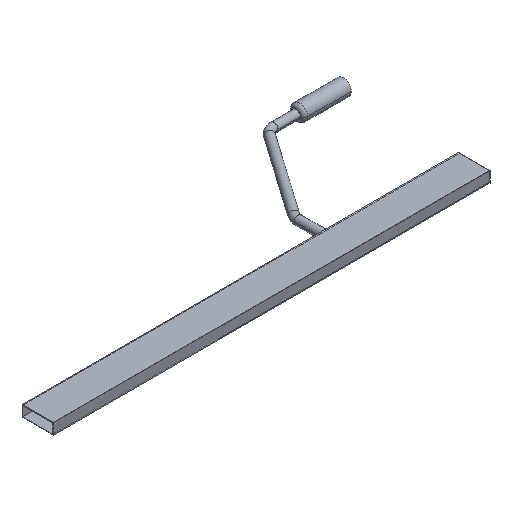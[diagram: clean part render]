
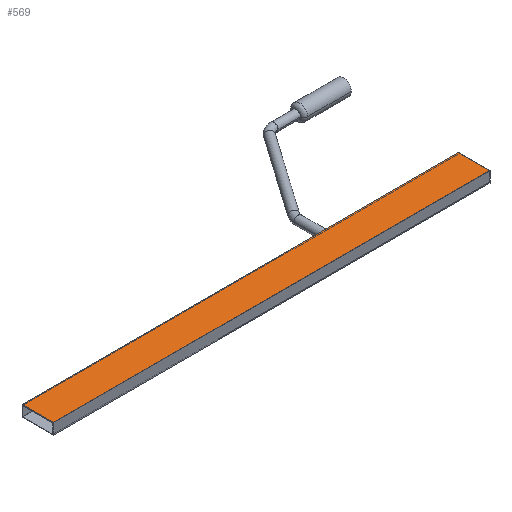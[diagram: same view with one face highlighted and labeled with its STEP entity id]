
A CAD part, isometric view. The second image highlights one B-rep face of the part: STEP entity #569.
In plain terms, the highlighted planar face has unit normal (0, 0, 1).
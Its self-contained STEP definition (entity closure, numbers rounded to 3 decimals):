
#69 = ORIENTED_EDGE ( 'NONE', *, *, #538, .F. ) ;
#70 = ORIENTED_EDGE ( 'NONE', *, *, #521, .F. ) ;
#71 = ORIENTED_EDGE ( 'NONE', *, *, #483, .T. ) ;
#72 = ORIENTED_EDGE ( 'NONE', *, *, #459, .T. ) ;
#114 = EDGE_LOOP ( 'NONE', ( #69, #70, #71, #72 ) ) ;
#133 = VERTEX_POINT ( 'NONE', #165 ) ;
#141 = VERTEX_POINT ( 'NONE', #169 ) ;
#143 = VERTEX_POINT ( 'NONE', #171 ) ;
#148 = VERTEX_POINT ( 'NONE', #176 ) ;
#165 = CARTESIAN_POINT ( 'NONE',  ( 127.247, -30., 5.25 ) ) ;
#169 = CARTESIAN_POINT ( 'NONE',  ( -289.853, 0., 5.25 ) ) ;
#171 = CARTESIAN_POINT ( 'NONE',  ( 127.247, 0., 5.25 ) ) ;
#176 = CARTESIAN_POINT ( 'NONE',  ( -289.853, -30., 5.25 ) ) ;
#216 = CARTESIAN_POINT ( 'NONE',  ( -289.853, -30., 5.25 ) ) ;
#219 = DIRECTION ( 'NONE',  ( 1., 0., 0. ) ) ;
#244 = CARTESIAN_POINT ( 'NONE',  ( -289.853, -30., 5.25 ) ) ;
#245 = DIRECTION ( 'NONE',  ( 0., -1., 0. ) ) ;
#297 = CARTESIAN_POINT ( 'NONE',  ( -289.853, 0., 5.25 ) ) ;
#298 = DIRECTION ( 'NONE',  ( 1., 0., 0. ) ) ;
#320 = CARTESIAN_POINT ( 'NONE',  ( 127.247, -30., 5.25 ) ) ;
#321 = DIRECTION ( 'NONE',  ( 0., -1., 0. ) ) ;
#376 = PLANE ( 'NONE',  #539 ) ;
#382 = CARTESIAN_POINT ( 'NONE',  ( -289.853, -30., 5.25 ) ) ;
#388 = DIRECTION ( 'NONE',  ( 0., 0., 1. ) ) ;
#389 = DIRECTION ( 'NONE',  ( 0., -1., 0. ) ) ;
#459 = EDGE_CURVE ( 'NONE', #148, #133, #595, .T. ) ;
#483 = EDGE_CURVE ( 'NONE', #141, #148, #618, .T. ) ;
#521 = EDGE_CURVE ( 'NONE', #141, #143, #642, .T. ) ;
#538 = EDGE_CURVE ( 'NONE', #143, #133, #667, .T. ) ;
#539 = AXIS2_PLACEMENT_3D ( 'NONE', #382, #388, #389 ) ;
#569 = ADVANCED_FACE ( 'NONE', ( #702 ), #376, .T. ) ;
#595 = LINE ( 'NONE', #216, #600 ) ;
#600 = VECTOR ( 'NONE', #219, 1000. ) ;
#618 = LINE ( 'NONE', #244, #619 ) ;
#619 = VECTOR ( 'NONE', #245, 1000. ) ;
#642 = LINE ( 'NONE', #297, #647 ) ;
#647 = VECTOR ( 'NONE', #298, 1000. ) ;
#667 = LINE ( 'NONE', #320, #668 ) ;
#668 = VECTOR ( 'NONE', #321, 1000. ) ;
#702 = FACE_OUTER_BOUND ( 'NONE', #114, .T. ) ;
